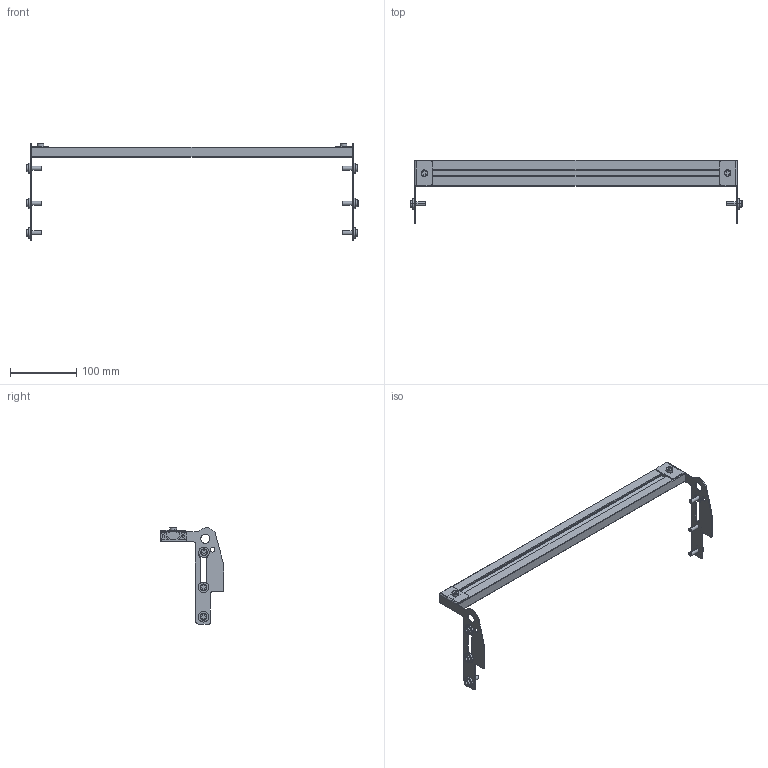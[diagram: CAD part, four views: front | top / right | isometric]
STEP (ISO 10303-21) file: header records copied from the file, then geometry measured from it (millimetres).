
FILE_DESCRIPTION (( 'STEP AP203' ), '1' );
FILE_NAME ('207215-18.STEP', '2018-11-14T13:50:41', ( '' ), ( '' ), 'SwSTEP 2.0', 'SolidWorks 2017', '' );
FILE_SCHEMA (( 'CONFIG_CONTROL_DESIGN' ));
Length unit declared in the file: inch
Products named in the file (8): 207217-WW_207217-18; 9506XXM_950620M; 207132-RH; 9506XXM_950612M; 207132-LH; 605279P; 207215-18; 834-FASN-M6
Assembly tree (19 placements, depth 2):
  207215-18
    207217-WW_207217-18
    834-FASN-M6  x2
    207132-RH
    207132-LH
    605279P  x6
    9506XXM_950620M  x6
    9506XXM_950612M  x2
Bounding box: 500.15 x 96.26 x 145.81 mm (x, y, z)
Volume: 159581.7 mm3; surface area: 149315.2 mm2
Topology: 19 solids, 19 shells, 374 faces, 912 edges, 592 vertices
Faces by surface type: plane 178, cylinder 164, cone 32
Entity records: 8456 total; most frequent: DIRECTION 1350, CARTESIAN_POINT 1252, ORIENTED_EDGE 1212, EDGE_CURVE 606, AXIS2_PLACEMENT_3D 494, VERTEX_POINT 396, VECTOR 362, LINE 362
